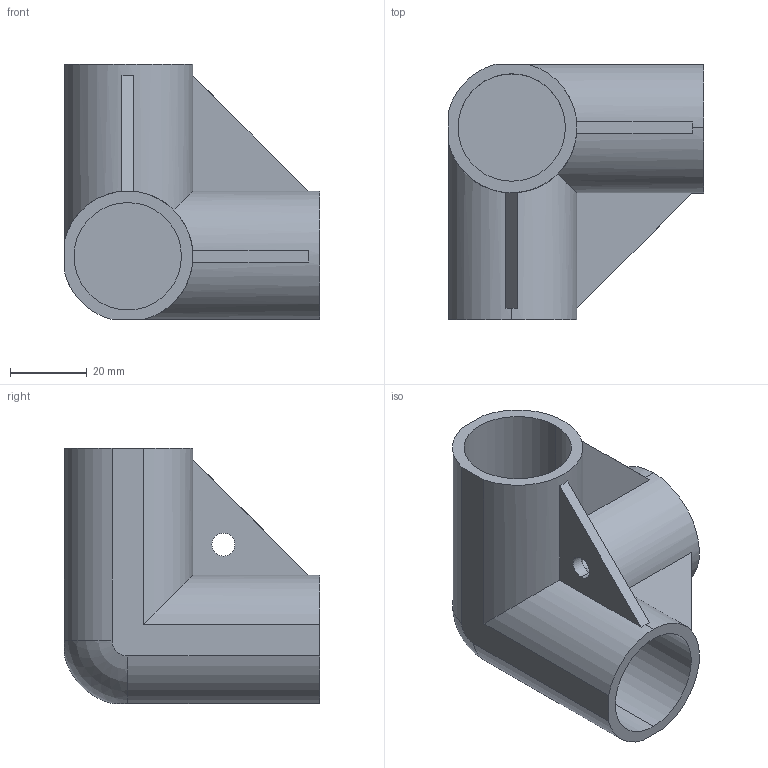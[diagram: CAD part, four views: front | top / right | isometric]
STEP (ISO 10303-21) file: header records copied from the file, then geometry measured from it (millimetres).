
FILE_DESCRIPTION (( 'STEP AP214' ), '1' );
FILE_NAME ('PJ-001.STEP', '2023-09-12T10:56:23', ( 'catia' ), ( 'HP Inc.' ), 'SwSTEP 2.0', 'SolidWorks 2021', '' );
FILE_SCHEMA (( 'AUTOMOTIVE_DESIGN' ));
Length unit declared in the file: millimetre
Products named in the file (1): PJ-001
Bounding box: 66.5 x 66.5 x 66.5 mm (x, y, z)
Volume: 69727.6 mm3; surface area: 26680.7 mm2
Topology: 1 solids, 1 shells, 35 faces, 90 edges, 60 vertices
Faces by surface type: plane 18, cylinder 16, sphere 1
Entity records: 1112 total; most frequent: CARTESIAN_POINT 228, ORIENTED_EDGE 180, DIRECTION 178, EDGE_CURVE 90, AXIS2_PLACEMENT_3D 66, VERTEX_POINT 60, VECTOR 46, LINE 46
